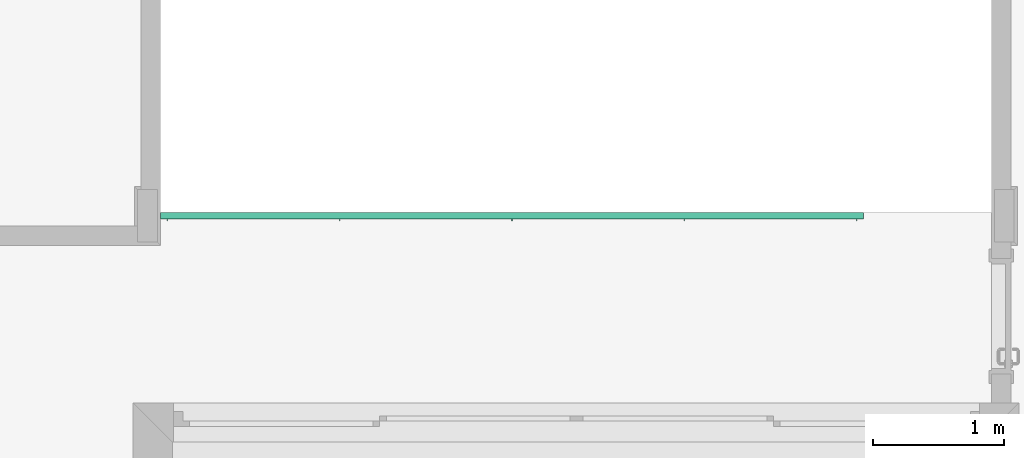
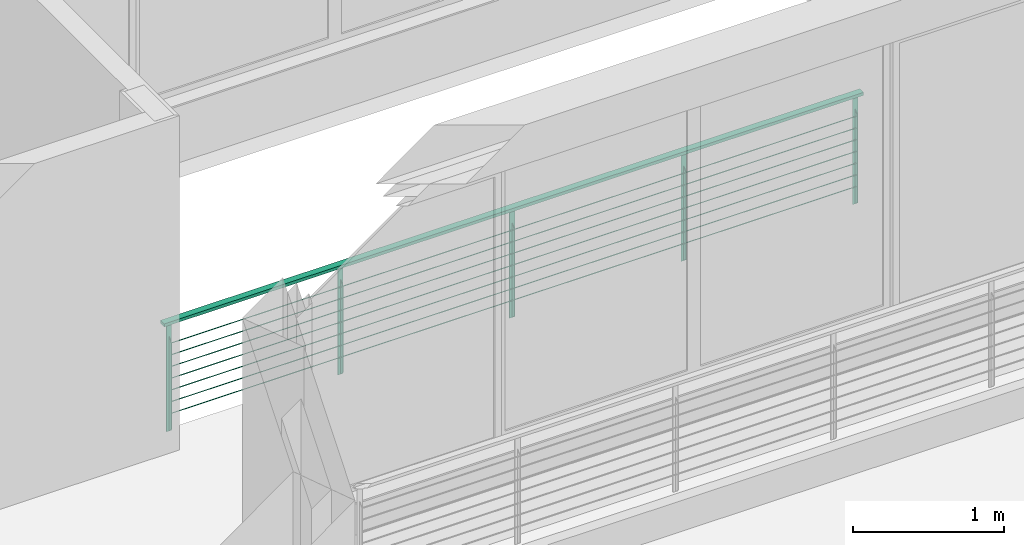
# One storey, part 19 of 24: 1 distribution element.
"""IFC2X3 building model written with IfcOpenShell, lengths in millimetres."""

from ifc_helpers import new_model, entity, si_unit, converted_unit, money_unit, direction, frame, origin_with_axes, place, context, subcontext, project, spatial, faceted_brep, material, type_object, element, save


model = new_model("IFC2X3")

# Units and contexts
model_context = context("Model", 3, precision=1e-05, world=origin_with_axes(), true_north=direction((0.0, 1.0)))
body_context = subcontext(model_context, "Body", "Model", "MODEL_VIEW")
ifc_project = project(units=[si_unit("LENGTHUNIT", "METRE", prefix="MILLI"), si_unit("AREAUNIT", "SQUARE_METRE"), si_unit("VOLUMEUNIT", "CUBIC_METRE"), converted_unit("PLANEANGLEUNIT", "DEGREE", entity("IfcPlaneAngleMeasure", 0.0174532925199), si_unit("PLANEANGLEUNIT", "RADIAN"), dimensions=[0, 0, 0, 0, 0, 0, 0]), si_unit("SOLIDANGLEUNIT", "STERADIAN"), money_unit("USD"), converted_unit("TIMEUNIT", "Year", entity("IfcTimeMeasure", 31556926.0), si_unit("TIMEUNIT", "SECOND"), dimensions=[0, 0, 0, 0, 0, 0, 0]), si_unit("MASSUNIT", "GRAM"), si_unit("THERMODYNAMICTEMPERATUREUNIT", "DEGREE_CELSIUS"), si_unit("LUMINOUSINTENSITYUNIT", "LUMEN")], contexts=[model_context])

# Site, building, storey
site_placement = place(None, origin_with_axes())
site = spatial("IfcSite", under=ifc_project, at=site_placement, Name="Grove Residential", CompositionType="ELEMENT")
building_placement = place(site_placement, origin_with_axes())
building = spatial("IfcBuilding", under=site, at=building_placement, Name="Building", CompositionType="ELEMENT")
storey_placement = place(building_placement, frame((0.0, 0.0, 3740.0), z_axis=(0.0, 0.0, 1.0), x_axis=(1.0, 0.0, 0.0)))
storey = spatial("IfcBuildingStorey", under=building, at=storey_placement, Name="First Floor", CompositionType="ELEMENT", Elevation=3740.0)

# Distribution element
ifc_material = material(Name="Background")
distribution_element_type = type_object("IfcDistributionElementType", Name="Rail Wired 02 20")
distribution_element_placement = place(storey_placement, frame((740.0, 3749.99996722, 0.0), z_axis=(0.0, 0.0, 1.0), x_axis=(1.0, 0.0, 0.0)))
element("IfcDistributionElement", 1, at=distribution_element_placement, inside=storey, type_object=distribution_element_type, material=ifc_material, Name="FU - 001", context=body_context, shape_type="Brep", body=[
    faceted_brep([(0.0, 25.0, 875.0), (0.0, -25.0, 875.0), (0.0, -25.0, 900.0), (0.0, 25.0, 900.0), (5360.0, 25.0, 875.0), (5360.0, -25.0, 875.0), (5360.0, -25.0, 900.0), (5360.0, 25.0, 900.0)], [[[0, 1, 2, 3]], [[0, 4, 5, 1]], [[1, 5, 6, 2]], [[3, 2, 6, 7]], [[4, 0, 3, 7]], [[5, 4, 7, 6]]]),
    faceted_brep([(30.0, -2.0, 0.0), (70.0, -2.0, 0.0), (70.0, -2.0, 871.0), (30.0, -2.0, 871.0), (30.0, 2.0, 0.0), (70.0, 2.0, 0.0), (70.0, 2.0, 871.0), (30.0, 2.0, 871.0)], [[[0, 1, 2, 3]], [[0, 4, 5, 1]], [[1, 5, 6, 2]], [[3, 2, 6, 7]], [[4, 0, 3, 7]], [[5, 4, 7, 6]]]),
    faceted_brep([(52.0, -38.0, 36.0), (52.0, -38.0, 731.0), (48.0, -38.0, 731.0), (48.0, -38.0, 36.0), (52.0, -2.0, 0.0), (52.0, -2.0, 767.0), (48.0, -2.0, 767.0), (48.0, -2.0, 0.0)], [[[0, 1, 2, 3]], [[0, 4, 5, 1]], [[1, 5, 6, 2]], [[3, 2, 6, 7]], [[4, 0, 3, 7]], [[5, 4, 7, 6]]]),
    faceted_brep([(1345.0, -2.0, 0.0), (1385.0, -2.0, 0.0), (1385.0, -2.0, 871.0), (1345.0, -2.0, 871.0), (1345.0, 2.0, 0.0), (1385.0, 2.0, 0.0), (1385.0, 2.0, 871.0), (1345.0, 2.0, 871.0)], [[[0, 1, 2, 3]], [[0, 4, 5, 1]], [[1, 5, 6, 2]], [[3, 2, 6, 7]], [[4, 0, 3, 7]], [[5, 4, 7, 6]]]),
    faceted_brep([(1367.0, -38.0, 36.0), (1367.0, -38.0, 731.0), (1363.0, -38.0, 731.0), (1363.0, -38.0, 36.0), (1367.0, -2.0, 0.0), (1367.0, -2.0, 767.0), (1363.0, -2.0, 767.0), (1363.0, -2.0, 0.0)], [[[0, 1, 2, 3]], [[0, 4, 5, 1]], [[1, 5, 6, 2]], [[3, 2, 6, 7]], [[4, 0, 3, 7]], [[5, 4, 7, 6]]]),
    faceted_brep([(2660.0, -2.0, 0.0), (2700.0, -2.0, 0.0), (2700.0, -2.0, 871.0), (2660.0, -2.0, 871.0), (2660.0, 2.0, 0.0), (2700.0, 2.0, 0.0), (2700.0, 2.0, 871.0), (2660.0, 2.0, 871.0)], [[[0, 1, 2, 3]], [[0, 4, 5, 1]], [[1, 5, 6, 2]], [[3, 2, 6, 7]], [[4, 0, 3, 7]], [[5, 4, 7, 6]]]),
    faceted_brep([(2682.0, -38.0, 36.0), (2682.0, -38.0, 731.0), (2678.0, -38.0, 731.0), (2678.0, -38.0, 36.0), (2682.0, -2.0, 0.0), (2682.0, -2.0, 767.0), (2678.0, -2.0, 767.0), (2678.0, -2.0, 0.0)], [[[0, 1, 2, 3]], [[0, 4, 5, 1]], [[1, 5, 6, 2]], [[3, 2, 6, 7]], [[4, 0, 3, 7]], [[5, 4, 7, 6]]]),
    faceted_brep([(3975.0, -2.0, 0.0), (4015.0, -2.0, 0.0), (4015.0, -2.0, 871.0), (3975.0, -2.0, 871.0), (3975.0, 2.0, 0.0), (4015.0, 2.0, 0.0), (4015.0, 2.0, 871.0), (3975.0, 2.0, 871.0)], [[[0, 1, 2, 3]], [[0, 4, 5, 1]], [[1, 5, 6, 2]], [[3, 2, 6, 7]], [[4, 0, 3, 7]], [[5, 4, 7, 6]]]),
    faceted_brep([(3997.0, -38.0, 36.0), (3997.0, -38.0, 731.0), (3993.0, -38.0, 731.0), (3993.0, -38.0, 36.0), (3997.0, -2.0, 0.0), (3997.0, -2.0, 767.0), (3993.0, -2.0, 767.0), (3993.0, -2.0, 0.0)], [[[0, 1, 2, 3]], [[0, 4, 5, 1]], [[1, 5, 6, 2]], [[3, 2, 6, 7]], [[4, 0, 3, 7]], [[5, 4, 7, 6]]]),
    faceted_brep([(5290.0, -2.0, 0.0), (5330.0, -2.0, 0.0), (5330.0, -2.0, 871.0), (5290.0, -2.0, 871.0), (5290.0, 2.0, 0.0), (5330.0, 2.0, 0.0), (5330.0, 2.0, 871.0), (5290.0, 2.0, 871.0)], [[[0, 1, 2, 3]], [[0, 4, 5, 1]], [[1, 5, 6, 2]], [[3, 2, 6, 7]], [[4, 0, 3, 7]], [[5, 4, 7, 6]]]),
    faceted_brep([(5312.0, -38.0, 36.0), (5312.0, -38.0, 731.0), (5308.0, -38.0, 731.0), (5308.0, -38.0, 36.0), (5312.0, -2.0, 0.0), (5312.0, -2.0, 767.0), (5308.0, -2.0, 767.0), (5308.0, -2.0, 0.0)], [[[0, 1, 2, 3]], [[0, 4, 5, 1]], [[1, 5, 6, 2]], [[3, 2, 6, 7]], [[4, 0, 3, 7]], [[5, 4, 7, 6]]]),
    faceted_brep([(20.0, -15.0, 871.0), (80.0, -15.0, 871.0), (80.0, -15.0, 875.0), (20.0, -15.0, 875.0), (20.0, 15.0, 871.0), (80.0, 15.0, 871.0), (80.0, 15.0, 875.0), (20.0, 15.0, 875.0)], [[[0, 1, 2, 3]], [[0, 4, 5, 1]], [[1, 5, 6, 2]], [[3, 2, 6, 7]], [[4, 0, 3, 7]], [[5, 4, 7, 6]]]),
    faceted_brep([(1335.0, -15.0, 871.0), (1395.0, -15.0, 871.0), (1395.0, -15.0, 875.0), (1335.0, -15.0, 875.0), (1335.0, 15.0, 871.0), (1395.0, 15.0, 871.0), (1395.0, 15.0, 875.0), (1335.0, 15.0, 875.0)], [[[0, 1, 2, 3]], [[0, 4, 5, 1]], [[1, 5, 6, 2]], [[3, 2, 6, 7]], [[4, 0, 3, 7]], [[5, 4, 7, 6]]]),
    faceted_brep([(2650.0, -15.0, 871.0), (2710.0, -15.0, 871.0), (2710.0, -15.0, 875.0), (2650.0, -15.0, 875.0), (2650.0, 15.0, 871.0), (2710.0, 15.0, 871.0), (2710.0, 15.0, 875.0), (2650.0, 15.0, 875.0)], [[[0, 1, 2, 3]], [[0, 4, 5, 1]], [[1, 5, 6, 2]], [[3, 2, 6, 7]], [[4, 0, 3, 7]], [[5, 4, 7, 6]]]),
    faceted_brep([(3965.0, -15.0, 871.0), (4025.0, -15.0, 871.0), (4025.0, -15.0, 875.0), (3965.0, -15.0, 875.0), (3965.0, 15.0, 871.0), (4025.0, 15.0, 871.0), (4025.0, 15.0, 875.0), (3965.0, 15.0, 875.0)], [[[0, 1, 2, 3]], [[0, 4, 5, 1]], [[1, 5, 6, 2]], [[3, 2, 6, 7]], [[4, 0, 3, 7]], [[5, 4, 7, 6]]]),
    faceted_brep([(5280.0, -15.0, 871.0), (5340.0, -15.0, 871.0), (5340.0, -15.0, 875.0), (5280.0, -15.0, 875.0), (5280.0, 15.0, 871.0), (5340.0, 15.0, 871.0), (5340.0, 15.0, 875.0), (5280.0, 15.0, 875.0)], [[[0, 1, 2, 3]], [[0, 4, 5, 1]], [[1, 5, 6, 2]], [[3, 2, 6, 7]], [[4, 0, 3, 7]], [[5, 4, 7, 6]]]),
    faceted_brep([(5290.0, -22.0, 155.0), (5290.0, -18.0, 155.0), (5310.0, -18.0, 155.0), (5310.0, -17.5, 155.0), (50.0, -17.5, 155.0), (50.0, -18.0, 155.0), (70.0, -18.0, 155.0), (70.0, -22.0, 155.0), (52.0, -22.0, 155.0), (52.0, -22.5, 155.0), (1363.0, -22.5, 155.0), (1363.0, -22.0, 155.0), (1345.0, -22.0, 155.0), (1345.0, -18.0, 155.0), (1385.0, -18.0, 155.0), (1385.0, -22.0, 155.0), (1367.0, -22.0, 155.0), (1367.0, -22.5, 155.0), (2678.0, -22.5, 155.0), (2678.0, -22.0, 155.0), (2660.0, -22.0, 155.0), (2660.0, -18.0, 155.0), (2700.0, -18.0, 155.0), (2700.0, -22.0, 155.0), (2682.0, -22.0, 155.0), (2682.0, -22.5, 155.0), (3993.0, -22.5, 155.0), (3993.0, -22.0, 155.0), (3975.0, -22.0, 155.0), (3975.0, -18.0, 155.0), (4015.0, -18.0, 155.0), (4015.0, -22.0, 155.0), (3997.0, -22.0, 155.0), (3997.0, -22.5, 155.0), (5308.0, -22.5, 155.0), (5308.0, -22.0, 155.0), (5290.0, -22.0, 150.0), (5290.0, -18.0, 150.0), (5310.0, -18.0, 150.0), (5310.0, -17.5, 150.0), (50.0, -17.5, 150.0), (50.0, -18.0, 150.0), (70.0, -18.0, 150.0), (70.0, -22.0, 150.0), (52.0, -22.0, 150.0), (52.0, -22.5, 150.0), (1363.0, -22.5, 150.0), (1363.0, -22.0, 150.0), (1345.0, -22.0, 150.0), (1345.0, -18.0, 150.0), (1385.0, -18.0, 150.0), (1385.0, -22.0, 150.0), (1367.0, -22.0, 150.0), (1367.0, -22.5, 150.0), (2678.0, -22.5, 150.0), (2678.0, -22.0, 150.0), (2660.0, -22.0, 150.0), (2660.0, -18.0, 150.0), (2700.0, -18.0, 150.0), (2700.0, -22.0, 150.0), (2682.0, -22.0, 150.0), (2682.0, -22.5, 150.0), (3993.0, -22.5, 150.0), (3993.0, -22.0, 150.0), (3975.0, -22.0, 150.0), (3975.0, -18.0, 150.0), (4015.0, -18.0, 150.0), (4015.0, -22.0, 150.0), (3997.0, -22.0, 150.0), (3997.0, -22.5, 150.0), (5308.0, -22.5, 150.0), (5308.0, -22.0, 150.0)], [[[0, 1, 2, 3, 4, 5, 6, 7, 8, 9, 10, 11, 12, 13, 14, 15, 16, 17, 18, 19, 20, 21, 22, 23, 24, 25, 26, 27, 28, 29, 30, 31, 32, 33, 34, 35]], [[1, 0, 36, 37]], [[38, 2, 1, 37]], [[2, 38, 39, 3]], [[3, 39, 40, 4]], [[41, 5, 4, 40]], [[6, 5, 41, 42]], [[7, 6, 42, 43]], [[44, 8, 7, 43]], [[9, 8, 44, 45]], [[46, 10, 9, 45]], [[47, 11, 10, 46]], [[11, 47, 48, 12]], [[13, 12, 48, 49]], [[14, 13, 49, 50]], [[15, 14, 50, 51]], [[52, 16, 15, 51]], [[17, 16, 52, 53]], [[54, 18, 17, 53]], [[55, 19, 18, 54]], [[19, 55, 56, 20]], [[21, 20, 56, 57]], [[22, 21, 57, 58]], [[23, 22, 58, 59]], [[60, 24, 23, 59]], [[25, 24, 60, 61]], [[62, 26, 25, 61]], [[63, 27, 26, 62]], [[27, 63, 64, 28]], [[29, 28, 64, 65]], [[30, 29, 65, 66]], [[31, 30, 66, 67]], [[68, 32, 31, 67]], [[33, 32, 68, 69]], [[33, 69, 70, 34]], [[71, 35, 34, 70]], [[0, 35, 71, 36]], [[36, 71, 70, 69, 68, 67, 66, 65, 64, 63, 62, 61, 60, 59, 58, 57, 56, 55, 54, 53, 52, 51, 50, 49, 48, 47, 46, 45, 44, 43, 42, 41, 40, 39, 38, 37]]]),
    faceted_brep([(5290.0, -22.0, 250.0), (5290.0, -18.0, 250.0), (5310.0, -18.0, 250.0), (5310.0, -17.5, 250.0), (50.0, -17.5, 250.0), (50.0, -18.0, 250.0), (70.0, -18.0, 250.0), (70.0, -22.0, 250.0), (52.0, -22.0, 250.0), (52.0, -22.5, 250.0), (1363.0, -22.5, 250.0), (1363.0, -22.0, 250.0), (1345.0, -22.0, 250.0), (1345.0, -18.0, 250.0), (1385.0, -18.0, 250.0), (1385.0, -22.0, 250.0), (1367.0, -22.0, 250.0), (1367.0, -22.5, 250.0), (2678.0, -22.5, 250.0), (2678.0, -22.0, 250.0), (2660.0, -22.0, 250.0), (2660.0, -18.0, 250.0), (2700.0, -18.0, 250.0), (2700.0, -22.0, 250.0), (2682.0, -22.0, 250.0), (2682.0, -22.5, 250.0), (3993.0, -22.5, 250.0), (3993.0, -22.0, 250.0), (3975.0, -22.0, 250.0), (3975.0, -18.0, 250.0), (4015.0, -18.0, 250.0), (4015.0, -22.0, 250.0), (3997.0, -22.0, 250.0), (3997.0, -22.5, 250.0), (5308.0, -22.5, 250.0), (5308.0, -22.0, 250.0), (5290.0, -22.0, 245.0), (5290.0, -18.0, 245.0), (5310.0, -18.0, 245.0), (5310.0, -17.5, 245.0), (50.0, -17.5, 245.0), (50.0, -18.0, 245.0), (70.0, -18.0, 245.0), (70.0, -22.0, 245.0), (52.0, -22.0, 245.0), (52.0, -22.5, 245.0), (1363.0, -22.5, 245.0), (1363.0, -22.0, 245.0), (1345.0, -22.0, 245.0), (1345.0, -18.0, 245.0), (1385.0, -18.0, 245.0), (1385.0, -22.0, 245.0), (1367.0, -22.0, 245.0), (1367.0, -22.5, 245.0), (2678.0, -22.5, 245.0), (2678.0, -22.0, 245.0), (2660.0, -22.0, 245.0), (2660.0, -18.0, 245.0), (2700.0, -18.0, 245.0), (2700.0, -22.0, 245.0), (2682.0, -22.0, 245.0), (2682.0, -22.5, 245.0), (3993.0, -22.5, 245.0), (3993.0, -22.0, 245.0), (3975.0, -22.0, 245.0), (3975.0, -18.0, 245.0), (4015.0, -18.0, 245.0), (4015.0, -22.0, 245.0), (3997.0, -22.0, 245.0), (3997.0, -22.5, 245.0), (5308.0, -22.5, 245.0), (5308.0, -22.0, 245.0)], [[[0, 1, 2, 3, 4, 5, 6, 7, 8, 9, 10, 11, 12, 13, 14, 15, 16, 17, 18, 19, 20, 21, 22, 23, 24, 25, 26, 27, 28, 29, 30, 31, 32, 33, 34, 35]], [[1, 0, 36, 37]], [[38, 2, 1, 37]], [[2, 38, 39, 3]], [[3, 39, 40, 4]], [[41, 5, 4, 40]], [[6, 5, 41, 42]], [[7, 6, 42, 43]], [[44, 8, 7, 43]], [[9, 8, 44, 45]], [[46, 10, 9, 45]], [[47, 11, 10, 46]], [[11, 47, 48, 12]], [[13, 12, 48, 49]], [[14, 13, 49, 50]], [[15, 14, 50, 51]], [[52, 16, 15, 51]], [[17, 16, 52, 53]], [[54, 18, 17, 53]], [[55, 19, 18, 54]], [[19, 55, 56, 20]], [[21, 20, 56, 57]], [[22, 21, 57, 58]], [[23, 22, 58, 59]], [[60, 24, 23, 59]], [[25, 24, 60, 61]], [[62, 26, 25, 61]], [[63, 27, 26, 62]], [[27, 63, 64, 28]], [[29, 28, 64, 65]], [[30, 29, 65, 66]], [[31, 30, 66, 67]], [[68, 32, 31, 67]], [[33, 32, 68, 69]], [[33, 69, 70, 34]], [[71, 35, 34, 70]], [[0, 35, 71, 36]], [[36, 71, 70, 69, 68, 67, 66, 65, 64, 63, 62, 61, 60, 59, 58, 57, 56, 55, 54, 53, 52, 51, 50, 49, 48, 47, 46, 45, 44, 43, 42, 41, 40, 39, 38, 37]]]),
    faceted_brep([(5290.0, -22.0, 345.0), (5290.0, -18.0, 345.0), (5310.0, -18.0, 345.0), (5310.0, -17.5, 345.0), (50.0, -17.5, 345.0), (50.0, -18.0, 345.0), (70.0, -18.0, 345.0), (70.0, -22.0, 345.0), (52.0, -22.0, 345.0), (52.0, -22.5, 345.0), (1363.0, -22.5, 345.0), (1363.0, -22.0, 345.0), (1345.0, -22.0, 345.0), (1345.0, -18.0, 345.0), (1385.0, -18.0, 345.0), (1385.0, -22.0, 345.0), (1367.0, -22.0, 345.0), (1367.0, -22.5, 345.0), (2678.0, -22.5, 345.0), (2678.0, -22.0, 345.0), (2660.0, -22.0, 345.0), (2660.0, -18.0, 345.0), (2700.0, -18.0, 345.0), (2700.0, -22.0, 345.0), (2682.0, -22.0, 345.0), (2682.0, -22.5, 345.0), (3993.0, -22.5, 345.0), (3993.0, -22.0, 345.0), (3975.0, -22.0, 345.0), (3975.0, -18.0, 345.0), (4015.0, -18.0, 345.0), (4015.0, -22.0, 345.0), (3997.0, -22.0, 345.0), (3997.0, -22.5, 345.0), (5308.0, -22.5, 345.0), (5308.0, -22.0, 345.0), (5290.0, -22.0, 340.0), (5290.0, -18.0, 340.0), (5310.0, -18.0, 340.0), (5310.0, -17.5, 340.0), (50.0, -17.5, 340.0), (50.0, -18.0, 340.0), (70.0, -18.0, 340.0), (70.0, -22.0, 340.0), (52.0, -22.0, 340.0), (52.0, -22.5, 340.0), (1363.0, -22.5, 340.0), (1363.0, -22.0, 340.0), (1345.0, -22.0, 340.0), (1345.0, -18.0, 340.0), (1385.0, -18.0, 340.0), (1385.0, -22.0, 340.0), (1367.0, -22.0, 340.0), (1367.0, -22.5, 340.0), (2678.0, -22.5, 340.0), (2678.0, -22.0, 340.0), (2660.0, -22.0, 340.0), (2660.0, -18.0, 340.0), (2700.0, -18.0, 340.0), (2700.0, -22.0, 340.0), (2682.0, -22.0, 340.0), (2682.0, -22.5, 340.0), (3993.0, -22.5, 340.0), (3993.0, -22.0, 340.0), (3975.0, -22.0, 340.0), (3975.0, -18.0, 340.0), (4015.0, -18.0, 340.0), (4015.0, -22.0, 340.0), (3997.0, -22.0, 340.0), (3997.0, -22.5, 340.0), (5308.0, -22.5, 340.0), (5308.0, -22.0, 340.0)], [[[0, 1, 2, 3, 4, 5, 6, 7, 8, 9, 10, 11, 12, 13, 14, 15, 16, 17, 18, 19, 20, 21, 22, 23, 24, 25, 26, 27, 28, 29, 30, 31, 32, 33, 34, 35]], [[1, 0, 36, 37]], [[38, 2, 1, 37]], [[2, 38, 39, 3]], [[3, 39, 40, 4]], [[41, 5, 4, 40]], [[6, 5, 41, 42]], [[7, 6, 42, 43]], [[44, 8, 7, 43]], [[9, 8, 44, 45]], [[46, 10, 9, 45]], [[47, 11, 10, 46]], [[11, 47, 48, 12]], [[13, 12, 48, 49]], [[14, 13, 49, 50]], [[15, 14, 50, 51]], [[52, 16, 15, 51]], [[17, 16, 52, 53]], [[54, 18, 17, 53]], [[55, 19, 18, 54]], [[19, 55, 56, 20]], [[21, 20, 56, 57]], [[22, 21, 57, 58]], [[23, 22, 58, 59]], [[60, 24, 23, 59]], [[25, 24, 60, 61]], [[62, 26, 25, 61]], [[63, 27, 26, 62]], [[27, 63, 64, 28]], [[29, 28, 64, 65]], [[30, 29, 65, 66]], [[31, 30, 66, 67]], [[68, 32, 31, 67]], [[33, 32, 68, 69]], [[33, 69, 70, 34]], [[71, 35, 34, 70]], [[0, 35, 71, 36]], [[36, 71, 70, 69, 68, 67, 66, 65, 64, 63, 62, 61, 60, 59, 58, 57, 56, 55, 54, 53, 52, 51, 50, 49, 48, 47, 46, 45, 44, 43, 42, 41, 40, 39, 38, 37]]]),
    faceted_brep([(5290.0, -22.0, 440.0), (5290.0, -18.0, 440.0), (5310.0, -18.0, 440.0), (5310.0, -17.5, 440.0), (50.0, -17.5, 440.0), (50.0, -18.0, 440.0), (70.0, -18.0, 440.0), (70.0, -22.0, 440.0), (52.0, -22.0, 440.0), (52.0, -22.5, 440.0), (1363.0, -22.5, 440.0), (1363.0, -22.0, 440.0), (1345.0, -22.0, 440.0), (1345.0, -18.0, 440.0), (1385.0, -18.0, 440.0), (1385.0, -22.0, 440.0), (1367.0, -22.0, 440.0), (1367.0, -22.5, 440.0), (2678.0, -22.5, 440.0), (2678.0, -22.0, 440.0), (2660.0, -22.0, 440.0), (2660.0, -18.0, 440.0), (2700.0, -18.0, 440.0), (2700.0, -22.0, 440.0), (2682.0, -22.0, 440.0), (2682.0, -22.5, 440.0), (3993.0, -22.5, 440.0), (3993.0, -22.0, 440.0), (3975.0, -22.0, 440.0), (3975.0, -18.0, 440.0), (4015.0, -18.0, 440.0), (4015.0, -22.0, 440.0), (3997.0, -22.0, 440.0), (3997.0, -22.5, 440.0), (5308.0, -22.5, 440.0), (5308.0, -22.0, 440.0), (5290.0, -22.0, 435.0), (5290.0, -18.0, 435.0), (5310.0, -18.0, 435.0), (5310.0, -17.5, 435.0), (50.0, -17.5, 435.0), (50.0, -18.0, 435.0), (70.0, -18.0, 435.0), (70.0, -22.0, 435.0), (52.0, -22.0, 435.0), (52.0, -22.5, 435.0), (1363.0, -22.5, 435.0), (1363.0, -22.0, 435.0), (1345.0, -22.0, 435.0), (1345.0, -18.0, 435.0), (1385.0, -18.0, 435.0), (1385.0, -22.0, 435.0), (1367.0, -22.0, 435.0), (1367.0, -22.5, 435.0), (2678.0, -22.5, 435.0), (2678.0, -22.0, 435.0), (2660.0, -22.0, 435.0), (2660.0, -18.0, 435.0), (2700.0, -18.0, 435.0), (2700.0, -22.0, 435.0), (2682.0, -22.0, 435.0), (2682.0, -22.5, 435.0), (3993.0, -22.5, 435.0), (3993.0, -22.0, 435.0), (3975.0, -22.0, 435.0), (3975.0, -18.0, 435.0), (4015.0, -18.0, 435.0), (4015.0, -22.0, 435.0), (3997.0, -22.0, 435.0), (3997.0, -22.5, 435.0), (5308.0, -22.5, 435.0), (5308.0, -22.0, 435.0)], [[[0, 1, 2, 3, 4, 5, 6, 7, 8, 9, 10, 11, 12, 13, 14, 15, 16, 17, 18, 19, 20, 21, 22, 23, 24, 25, 26, 27, 28, 29, 30, 31, 32, 33, 34, 35]], [[1, 0, 36, 37]], [[38, 2, 1, 37]], [[2, 38, 39, 3]], [[3, 39, 40, 4]], [[41, 5, 4, 40]], [[6, 5, 41, 42]], [[7, 6, 42, 43]], [[44, 8, 7, 43]], [[9, 8, 44, 45]], [[46, 10, 9, 45]], [[47, 11, 10, 46]], [[11, 47, 48, 12]], [[13, 12, 48, 49]], [[14, 13, 49, 50]], [[15, 14, 50, 51]], [[52, 16, 15, 51]], [[17, 16, 52, 53]], [[54, 18, 17, 53]], [[55, 19, 18, 54]], [[19, 55, 56, 20]], [[21, 20, 56, 57]], [[22, 21, 57, 58]], [[23, 22, 58, 59]], [[60, 24, 23, 59]], [[25, 24, 60, 61]], [[62, 26, 25, 61]], [[63, 27, 26, 62]], [[27, 63, 64, 28]], [[29, 28, 64, 65]], [[30, 29, 65, 66]], [[31, 30, 66, 67]], [[68, 32, 31, 67]], [[33, 32, 68, 69]], [[33, 69, 70, 34]], [[71, 35, 34, 70]], [[0, 35, 71, 36]], [[36, 71, 70, 69, 68, 67, 66, 65, 64, 63, 62, 61, 60, 59, 58, 57, 56, 55, 54, 53, 52, 51, 50, 49, 48, 47, 46, 45, 44, 43, 42, 41, 40, 39, 38, 37]]]),
    faceted_brep([(5290.0, -22.0, 535.0), (5290.0, -18.0, 535.0), (5310.0, -18.0, 535.0), (5310.0, -17.5, 535.0), (50.0, -17.5, 535.0), (50.0, -18.0, 535.0), (70.0, -18.0, 535.0), (70.0, -22.0, 535.0), (52.0, -22.0, 535.0), (52.0, -22.5, 535.0), (1363.0, -22.5, 535.0), (1363.0, -22.0, 535.0), (1345.0, -22.0, 535.0), (1345.0, -18.0, 535.0), (1385.0, -18.0, 535.0), (1385.0, -22.0, 535.0), (1367.0, -22.0, 535.0), (1367.0, -22.5, 535.0), (2678.0, -22.5, 535.0), (2678.0, -22.0, 535.0), (2660.0, -22.0, 535.0), (2660.0, -18.0, 535.0), (2700.0, -18.0, 535.0), (2700.0, -22.0, 535.0), (2682.0, -22.0, 535.0), (2682.0, -22.5, 535.0), (3993.0, -22.5, 535.0), (3993.0, -22.0, 535.0), (3975.0, -22.0, 535.0), (3975.0, -18.0, 535.0), (4015.0, -18.0, 535.0), (4015.0, -22.0, 535.0), (3997.0, -22.0, 535.0), (3997.0, -22.5, 535.0), (5308.0, -22.5, 535.0), (5308.0, -22.0, 535.0), (5290.0, -22.0, 530.0), (5290.0, -18.0, 530.0), (5310.0, -18.0, 530.0), (5310.0, -17.5, 530.0), (50.0, -17.5, 530.0), (50.0, -18.0, 530.0), (70.0, -18.0, 530.0), (70.0, -22.0, 530.0), (52.0, -22.0, 530.0), (52.0, -22.5, 530.0), (1363.0, -22.5, 530.0), (1363.0, -22.0, 530.0), (1345.0, -22.0, 530.0), (1345.0, -18.0, 530.0), (1385.0, -18.0, 530.0), (1385.0, -22.0, 530.0), (1367.0, -22.0, 530.0), (1367.0, -22.5, 530.0), (2678.0, -22.5, 530.0), (2678.0, -22.0, 530.0), (2660.0, -22.0, 530.0), (2660.0, -18.0, 530.0), (2700.0, -18.0, 530.0), (2700.0, -22.0, 530.0), (2682.0, -22.0, 530.0), (2682.0, -22.5, 530.0), (3993.0, -22.5, 530.0), (3993.0, -22.0, 530.0), (3975.0, -22.0, 530.0), (3975.0, -18.0, 530.0), (4015.0, -18.0, 530.0), (4015.0, -22.0, 530.0), (3997.0, -22.0, 530.0), (3997.0, -22.5, 530.0), (5308.0, -22.5, 530.0), (5308.0, -22.0, 530.0)], [[[0, 1, 2, 3, 4, 5, 6, 7, 8, 9, 10, 11, 12, 13, 14, 15, 16, 17, 18, 19, 20, 21, 22, 23, 24, 25, 26, 27, 28, 29, 30, 31, 32, 33, 34, 35]], [[1, 0, 36, 37]], [[38, 2, 1, 37]], [[2, 38, 39, 3]], [[3, 39, 40, 4]], [[41, 5, 4, 40]], [[6, 5, 41, 42]], [[7, 6, 42, 43]], [[44, 8, 7, 43]], [[9, 8, 44, 45]], [[46, 10, 9, 45]], [[47, 11, 10, 46]], [[11, 47, 48, 12]], [[13, 12, 48, 49]], [[14, 13, 49, 50]], [[15, 14, 50, 51]], [[52, 16, 15, 51]], [[17, 16, 52, 53]], [[54, 18, 17, 53]], [[55, 19, 18, 54]], [[19, 55, 56, 20]], [[21, 20, 56, 57]], [[22, 21, 57, 58]], [[23, 22, 58, 59]], [[60, 24, 23, 59]], [[25, 24, 60, 61]], [[62, 26, 25, 61]], [[63, 27, 26, 62]], [[27, 63, 64, 28]], [[29, 28, 64, 65]], [[30, 29, 65, 66]], [[31, 30, 66, 67]], [[68, 32, 31, 67]], [[33, 32, 68, 69]], [[33, 69, 70, 34]], [[71, 35, 34, 70]], [[0, 35, 71, 36]], [[36, 71, 70, 69, 68, 67, 66, 65, 64, 63, 62, 61, 60, 59, 58, 57, 56, 55, 54, 53, 52, 51, 50, 49, 48, 47, 46, 45, 44, 43, 42, 41, 40, 39, 38, 37]]]),
    faceted_brep([(5290.0, -22.0, 630.0), (5290.0, -18.0, 630.0), (5310.0, -18.0, 630.0), (5310.0, -17.5, 630.0), (50.0, -17.5, 630.0), (50.0, -18.0, 630.0), (70.0, -18.0, 630.0), (70.0, -22.0, 630.0), (52.0, -22.0, 630.0), (52.0, -22.5, 630.0), (1363.0, -22.5, 630.0), (1363.0, -22.0, 630.0), (1345.0, -22.0, 630.0), (1345.0, -18.0, 630.0), (1385.0, -18.0, 630.0), (1385.0, -22.0, 630.0), (1367.0, -22.0, 630.0), (1367.0, -22.5, 630.0), (2678.0, -22.5, 630.0), (2678.0, -22.0, 630.0), (2660.0, -22.0, 630.0), (2660.0, -18.0, 630.0), (2700.0, -18.0, 630.0), (2700.0, -22.0, 630.0), (2682.0, -22.0, 630.0), (2682.0, -22.5, 630.0), (3993.0, -22.5, 630.0), (3993.0, -22.0, 630.0), (3975.0, -22.0, 630.0), (3975.0, -18.0, 630.0), (4015.0, -18.0, 630.0), (4015.0, -22.0, 630.0), (3997.0, -22.0, 630.0), (3997.0, -22.5, 630.0), (5308.0, -22.5, 630.0), (5308.0, -22.0, 630.0), (5290.0, -22.0, 625.0), (5290.0, -18.0, 625.0), (5310.0, -18.0, 625.0), (5310.0, -17.5, 625.0), (50.0, -17.5, 625.0), (50.0, -18.0, 625.0), (70.0, -18.0, 625.0), (70.0, -22.0, 625.0), (52.0, -22.0, 625.0), (52.0, -22.5, 625.0), (1363.0, -22.5, 625.0), (1363.0, -22.0, 625.0), (1345.0, -22.0, 625.0), (1345.0, -18.0, 625.0), (1385.0, -18.0, 625.0), (1385.0, -22.0, 625.0), (1367.0, -22.0, 625.0), (1367.0, -22.5, 625.0), (2678.0, -22.5, 625.0), (2678.0, -22.0, 625.0), (2660.0, -22.0, 625.0), (2660.0, -18.0, 625.0), (2700.0, -18.0, 625.0), (2700.0, -22.0, 625.0), (2682.0, -22.0, 625.0), (2682.0, -22.5, 625.0), (3993.0, -22.5, 625.0), (3993.0, -22.0, 625.0), (3975.0, -22.0, 625.0), (3975.0, -18.0, 625.0), (4015.0, -18.0, 625.0), (4015.0, -22.0, 625.0), (3997.0, -22.0, 625.0), (3997.0, -22.5, 625.0), (5308.0, -22.5, 625.0), (5308.0, -22.0, 625.0)], [[[0, 1, 2, 3, 4, 5, 6, 7, 8, 9, 10, 11, 12, 13, 14, 15, 16, 17, 18, 19, 20, 21, 22, 23, 24, 25, 26, 27, 28, 29, 30, 31, 32, 33, 34, 35]], [[1, 0, 36, 37]], [[38, 2, 1, 37]], [[2, 38, 39, 3]], [[3, 39, 40, 4]], [[41, 5, 4, 40]], [[6, 5, 41, 42]], [[7, 6, 42, 43]], [[44, 8, 7, 43]], [[9, 8, 44, 45]], [[46, 10, 9, 45]], [[47, 11, 10, 46]], [[11, 47, 48, 12]], [[13, 12, 48, 49]], [[14, 13, 49, 50]], [[15, 14, 50, 51]], [[52, 16, 15, 51]], [[17, 16, 52, 53]], [[54, 18, 17, 53]], [[55, 19, 18, 54]], [[19, 55, 56, 20]], [[21, 20, 56, 57]], [[22, 21, 57, 58]], [[23, 22, 58, 59]], [[60, 24, 23, 59]], [[25, 24, 60, 61]], [[62, 26, 25, 61]], [[63, 27, 26, 62]], [[27, 63, 64, 28]], [[29, 28, 64, 65]], [[30, 29, 65, 66]], [[31, 30, 66, 67]], [[68, 32, 31, 67]], [[33, 32, 68, 69]], [[33, 69, 70, 34]], [[71, 35, 34, 70]], [[0, 35, 71, 36]], [[36, 71, 70, 69, 68, 67, 66, 65, 64, 63, 62, 61, 60, 59, 58, 57, 56, 55, 54, 53, 52, 51, 50, 49, 48, 47, 46, 45, 44, 43, 42, 41, 40, 39, 38, 37]]]),
    faceted_brep([(5290.0, -22.0, 725.0), (5290.0, -18.0, 725.0), (5310.0, -18.0, 725.0), (5310.0, -17.5, 725.0), (50.0, -17.5, 725.0), (50.0, -18.0, 725.0), (70.0, -18.0, 725.0), (70.0, -22.0, 725.0), (52.0, -22.0, 725.0), (52.0, -22.5, 725.0), (1363.0, -22.5, 725.0), (1363.0, -22.0, 725.0), (1345.0, -22.0, 725.0), (1345.0, -18.0, 725.0), (1385.0, -18.0, 725.0), (1385.0, -22.0, 725.0), (1367.0, -22.0, 725.0), (1367.0, -22.5, 725.0), (2678.0, -22.5, 725.0), (2678.0, -22.0, 725.0), (2660.0, -22.0, 725.0), (2660.0, -18.0, 725.0), (2700.0, -18.0, 725.0), (2700.0, -22.0, 725.0), (2682.0, -22.0, 725.0), (2682.0, -22.5, 725.0), (3993.0, -22.5, 725.0), (3993.0, -22.0, 725.0), (3975.0, -22.0, 725.0), (3975.0, -18.0, 725.0), (4015.0, -18.0, 725.0), (4015.0, -22.0, 725.0), (3997.0, -22.0, 725.0), (3997.0, -22.5, 725.0), (5308.0, -22.5, 725.0), (5308.0, -22.0, 725.0), (5290.0, -22.0, 720.0), (5290.0, -18.0, 720.0), (5310.0, -18.0, 720.0), (5310.0, -17.5, 720.0), (50.0, -17.5, 720.0), (50.0, -18.0, 720.0), (70.0, -18.0, 720.0), (70.0, -22.0, 720.0), (52.0, -22.0, 720.0), (52.0, -22.5, 720.0), (1363.0, -22.5, 720.0), (1363.0, -22.0, 720.0), (1345.0, -22.0, 720.0), (1345.0, -18.0, 720.0), (1385.0, -18.0, 720.0), (1385.0, -22.0, 720.0), (1367.0, -22.0, 720.0), (1367.0, -22.5, 720.0), (2678.0, -22.5, 720.0), (2678.0, -22.0, 720.0), (2660.0, -22.0, 720.0), (2660.0, -18.0, 720.0), (2700.0, -18.0, 720.0), (2700.0, -22.0, 720.0), (2682.0, -22.0, 720.0), (2682.0, -22.5, 720.0), (3993.0, -22.5, 720.0), (3993.0, -22.0, 720.0), (3975.0, -22.0, 720.0), (3975.0, -18.0, 720.0), (4015.0, -18.0, 720.0), (4015.0, -22.0, 720.0), (3997.0, -22.0, 720.0), (3997.0, -22.5, 720.0), (5308.0, -22.5, 720.0), (5308.0, -22.0, 720.0)], [[[0, 1, 2, 3, 4, 5, 6, 7, 8, 9, 10, 11, 12, 13, 14, 15, 16, 17, 18, 19, 20, 21, 22, 23, 24, 25, 26, 27, 28, 29, 30, 31, 32, 33, 34, 35]], [[1, 0, 36, 37]], [[38, 2, 1, 37]], [[2, 38, 39, 3]], [[3, 39, 40, 4]], [[41, 5, 4, 40]], [[6, 5, 41, 42]], [[7, 6, 42, 43]], [[44, 8, 7, 43]], [[9, 8, 44, 45]], [[46, 10, 9, 45]], [[47, 11, 10, 46]], [[11, 47, 48, 12]], [[13, 12, 48, 49]], [[14, 13, 49, 50]], [[15, 14, 50, 51]], [[52, 16, 15, 51]], [[17, 16, 52, 53]], [[54, 18, 17, 53]], [[55, 19, 18, 54]], [[19, 55, 56, 20]], [[21, 20, 56, 57]], [[22, 21, 57, 58]], [[23, 22, 58, 59]], [[60, 24, 23, 59]], [[25, 24, 60, 61]], [[62, 26, 25, 61]], [[63, 27, 26, 62]], [[27, 63, 64, 28]], [[29, 28, 64, 65]], [[30, 29, 65, 66]], [[31, 30, 66, 67]], [[68, 32, 31, 67]], [[33, 32, 68, 69]], [[33, 69, 70, 34]], [[71, 35, 34, 70]], [[0, 35, 71, 36]], [[36, 71, 70, 69, 68, 67, 66, 65, 64, 63, 62, 61, 60, 59, 58, 57, 56, 55, 54, 53, 52, 51, 50, 49, 48, 47, 46, 45, 44, 43, 42, 41, 40, 39, 38, 37]]]),
])

save(model, "model.ifc")
